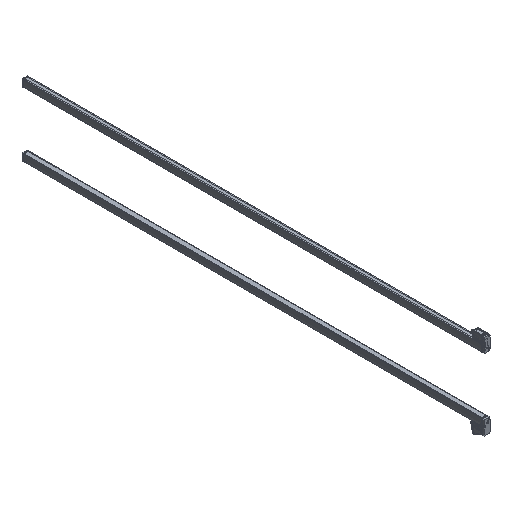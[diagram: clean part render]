
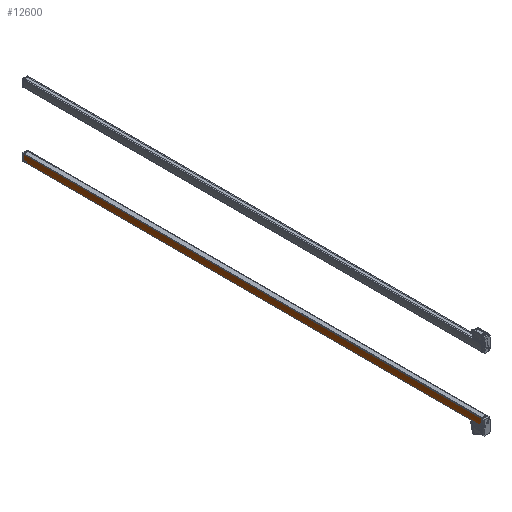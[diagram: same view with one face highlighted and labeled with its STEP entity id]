
A CAD part, isometric view. The second image highlights one B-rep face of the part: STEP entity #12600.
In plain terms, the highlighted cylindrical face has radius 250 mm (diameter 500 mm), a partial arc.
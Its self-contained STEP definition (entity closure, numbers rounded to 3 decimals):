
#11678=CYLINDRICAL_SURFACE('',#79139,250.);
#12600=ADVANCED_FACE('',(#18549),#11678,.T.);
#18549=FACE_OUTER_BOUND('',#22189,.T.);
#22189=EDGE_LOOP('',(#29285,#29286,#29287,#29288));
#26616=CIRCLE('',#79049,250.);
#26663=CIRCLE('',#79138,250.);
#29285=ORIENTED_EDGE('',*,*,#56790,.T.);
#29286=ORIENTED_EDGE('',*,*,#56914,.F.);
#29287=ORIENTED_EDGE('',*,*,#56915,.T.);
#29288=ORIENTED_EDGE('',*,*,#56912,.F.);
#49990=VERTEX_POINT('',#104094);
#49991=VERTEX_POINT('',#104096);
#50072=VERTEX_POINT('',#104340);
#50073=VERTEX_POINT('',#104344);
#56790=EDGE_CURVE('',#49991,#49990,#26616,.T.);
#56912=EDGE_CURVE('',#49991,#50072,#67318,.T.);
#56914=EDGE_CURVE('',#50073,#49990,#67319,.T.);
#56915=EDGE_CURVE('',#50073,#50072,#26663,.T.);
#67318=LINE('',#104339,#73178);
#67319=LINE('',#104343,#73179);
#73178=VECTOR('',#85629,1.);
#73179=VECTOR('',#85634,1.);
#79049=AXIS2_PLACEMENT_3D('',#104095,#85379,#85380);
#79138=AXIS2_PLACEMENT_3D('',#104345,#85635,#85636);
#79139=AXIS2_PLACEMENT_3D('',#104346,#85637,#85638);
#85379=DIRECTION('',(0.,0.,1.));
#85380=DIRECTION('',(-0.998,0.067,0.));
#85629=DIRECTION('',(0.,0.,1.));
#85634=DIRECTION('',(0.,0.,-1.));
#85635=DIRECTION('',(0.,0.,-1.));
#85636=DIRECTION('',(-0.998,0.067,0.));
#85637=DIRECTION('',(0.,0.,-1.));
#85638=DIRECTION('',(0.998,-0.067,0.));
#104094=CARTESIAN_POINT('',(13.731,16.86,-2322.));
#104095=CARTESIAN_POINT('',(-235.7,0.,-2322.));
#104096=CARTESIAN_POINT('',(13.793,-15.907,-2322.));
#104339=CARTESIAN_POINT('',(13.793,-15.907,-452.));
#104340=CARTESIAN_POINT('',(13.793,-15.907,0.));
#104343=CARTESIAN_POINT('',(13.731,16.86,0.));
#104344=CARTESIAN_POINT('',(13.731,16.86,0.));
#104345=CARTESIAN_POINT('',(-235.7,0.,0.));
#104346=CARTESIAN_POINT('',(-235.7,0.,0.));
